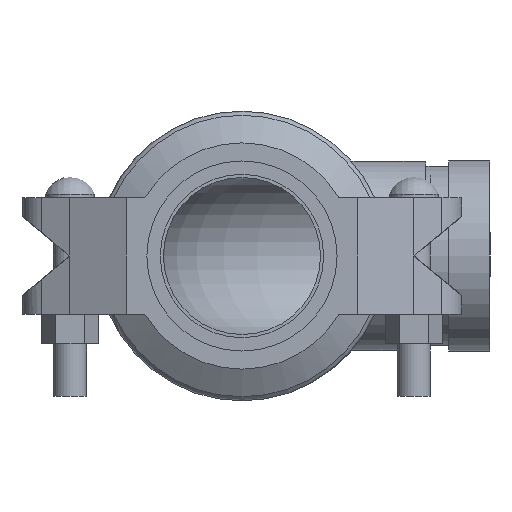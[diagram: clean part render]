
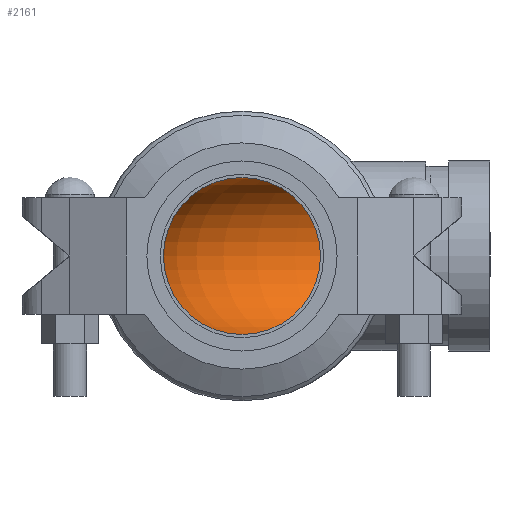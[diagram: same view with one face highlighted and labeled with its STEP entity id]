
A CAD part, left-side view. The second image highlights one B-rep face of the part: STEP entity #2161.
In plain terms, the highlighted toroidal (fillet/blend) face has major radius 72.238 mm and minor radius 31.356 mm.
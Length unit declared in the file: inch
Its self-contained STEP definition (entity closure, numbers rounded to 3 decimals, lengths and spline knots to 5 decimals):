
#62=TOROIDAL_SURFACE('',#2390,2.844,1.2345);
#476=FACE_OUTER_BOUND('',#597,.T.);
#597=EDGE_LOOP('',(#1379,#1380,#1381,#1382,#1383,#1384));
#735=CIRCLE('',#2387,1.2345);
#736=CIRCLE('',#2388,1.2345);
#738=CIRCLE('',#2391,1.2345);
#739=CIRCLE('',#2392,1.6095);
#740=CIRCLE('',#2393,1.2345);
#847=VERTEX_POINT('',#3448);
#848=VERTEX_POINT('',#3449);
#850=VERTEX_POINT('',#3456);
#851=VERTEX_POINT('',#3457);
#1055=EDGE_CURVE('',#847,#848,#735,.T.);
#1056=EDGE_CURVE('',#848,#847,#736,.T.);
#1059=EDGE_CURVE('',#850,#851,#738,.T.);
#1060=EDGE_CURVE('',#851,#848,#739,.T.);
#1061=EDGE_CURVE('',#851,#850,#740,.T.);
#1379=ORIENTED_EDGE('',*,*,#1059,.T.);
#1380=ORIENTED_EDGE('',*,*,#1060,.T.);
#1381=ORIENTED_EDGE('',*,*,#1055,.F.);
#1382=ORIENTED_EDGE('',*,*,#1056,.F.);
#1383=ORIENTED_EDGE('',*,*,#1060,.F.);
#1384=ORIENTED_EDGE('',*,*,#1061,.T.);
#2161=ADVANCED_FACE('',(#476),#62,.F.);
#2387=AXIS2_PLACEMENT_3D('',#3450,#2656,#2657);
#2388=AXIS2_PLACEMENT_3D('',#3451,#2658,#2659);
#2390=AXIS2_PLACEMENT_3D('',#3455,#2663,#2664);
#2391=AXIS2_PLACEMENT_3D('',#3458,#2665,#2666);
#2392=AXIS2_PLACEMENT_3D('',#3459,#2667,#2668);
#2393=AXIS2_PLACEMENT_3D('',#3460,#2669,#2670);
#2656=DIRECTION('center_axis',(0.,1.,0.));
#2657=DIRECTION('ref_axis',(1.,0.,0.));
#2658=DIRECTION('center_axis',(0.,1.,0.));
#2659=DIRECTION('ref_axis',(1.,0.,0.));
#2663=DIRECTION('center_axis',(0.,0.,1.));
#2664=DIRECTION('ref_axis',(1.,0.,0.));
#2665=DIRECTION('center_axis',(1.,0.,0.));
#2666=DIRECTION('ref_axis',(0.,-1.,0.));
#2667=DIRECTION('center_axis',(0.,0.,1.));
#2668=DIRECTION('ref_axis',(1.,0.,0.));
#2669=DIRECTION('center_axis',(1.,0.,0.));
#2670=DIRECTION('ref_axis',(0.,-1.,0.));
#3448=CARTESIAN_POINT('',(-1.2345,-2.844,0.));
#3449=CARTESIAN_POINT('',(1.2345,-2.844,0.));
#3450=CARTESIAN_POINT('Origin',(0.,-2.844,
0.));
#3451=CARTESIAN_POINT('Origin',(0.,-2.844,
0.));
#3455=CARTESIAN_POINT('Origin',(2.844,-2.844,0.));
#3456=CARTESIAN_POINT('',(2.844,1.2345,0.));
#3457=CARTESIAN_POINT('',(2.844,-1.2345,0.));
#3458=CARTESIAN_POINT('Origin',(2.844,0.,0.));
#3459=CARTESIAN_POINT('Origin',(2.844,-2.844,0.));
#3460=CARTESIAN_POINT('Origin',(2.844,0.,0.));
